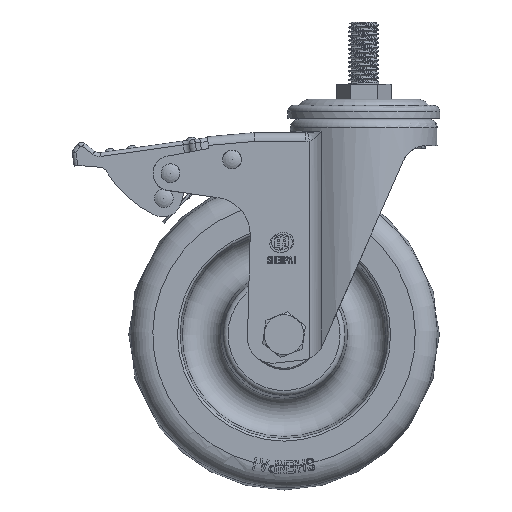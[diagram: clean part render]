
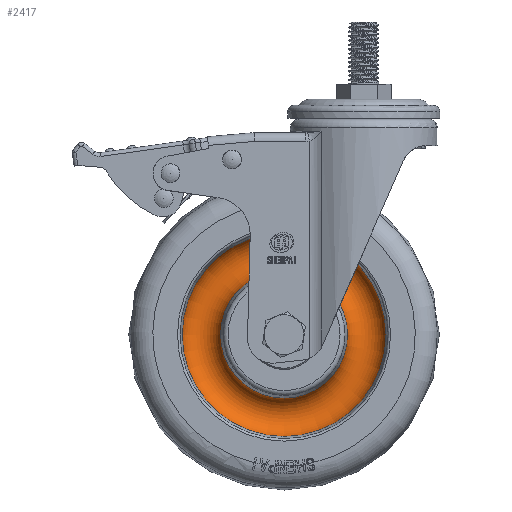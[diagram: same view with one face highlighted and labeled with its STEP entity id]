
A CAD part, front view. The second image highlights one B-rep face of the part: STEP entity #2417.
In plain terms, the highlighted toroidal (fillet/blend) face has major radius 33.201 mm and minor radius 8 mm.
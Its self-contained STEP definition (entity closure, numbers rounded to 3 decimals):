
#537=TOROIDAL_SURFACE('',#21566,33.201,8.);
#2417=ADVANCED_FACE('',(#7039,#7040),#537,.F.);
#7039=FACE_BOUND('',#8075,.T.);
#7040=FACE_BOUND('',#8076,.T.);
#8075=EDGE_LOOP('',(#12749));
#8076=EDGE_LOOP('',(#12750));
#12749=ORIENTED_EDGE('',*,*,#18528,.T.);
#12750=ORIENTED_EDGE('',*,*,#18529,.F.);
#15815=VERTEX_POINT('',#41480);
#15816=VERTEX_POINT('',#41483);
#18528=EDGE_CURVE('',#15815,#15815,#19961,.T.);
#18529=EDGE_CURVE('',#15816,#15816,#19962,.T.);
#19961=CIRCLE('',#21563,25.474);
#19962=CIRCLE('',#21565,40.928);
#21563=AXIS2_PLACEMENT_3D('',#41479,#25819,#25820);
#21565=AXIS2_PLACEMENT_3D('',#41482,#25823,#25824);
#21566=AXIS2_PLACEMENT_3D('',#41484,#25825,#25826);
#25819=DIRECTION('',(0.,1.,0.));
#25820=DIRECTION('',(-1.,0.,0.));
#25823=DIRECTION('',(0.,1.,0.));
#25824=DIRECTION('',(-1.,0.,0.));
#25825=DIRECTION('',(0.,1.,0.));
#25826=DIRECTION('',(1.,0.,0.));
#41479=CARTESIAN_POINT('',(-32.,-12.251,-125.5));
#41480=CARTESIAN_POINT('',(-57.474,-12.251,-125.5));
#41482=CARTESIAN_POINT('',(-32.,-12.251,-125.5));
#41483=CARTESIAN_POINT('',(-72.928,-12.251,-125.5));
#41484=CARTESIAN_POINT('',(-32.,-14.321,-125.5));
